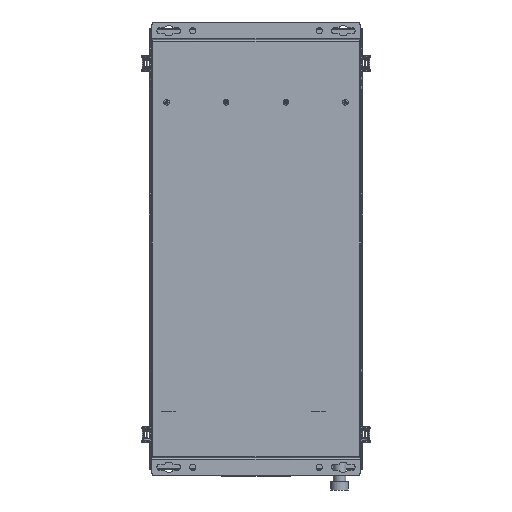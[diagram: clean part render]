
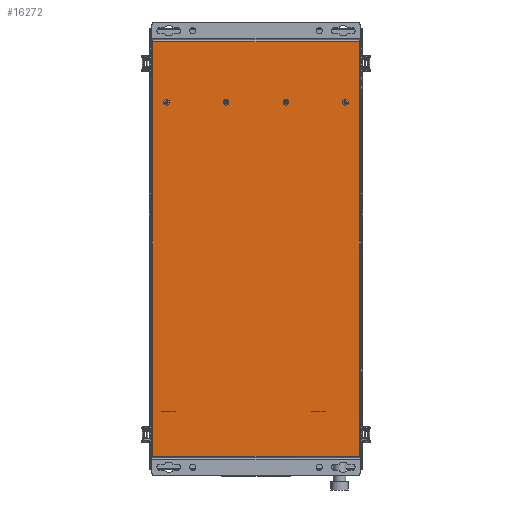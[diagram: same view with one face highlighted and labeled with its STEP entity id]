
A CAD part, front view. The second image highlights one B-rep face of the part: STEP entity #16272.
In plain terms, the highlighted planar face has unit normal (0, -1, 0).
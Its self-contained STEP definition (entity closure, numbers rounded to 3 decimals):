
#56 = CARTESIAN_POINT ( 'NONE',  ( 128., 0., 210. ) ) ;
#502 = ORIENTED_EDGE ( 'NONE', *, *, #21022, .F. ) ;
#509 = VERTEX_POINT ( 'NONE', #10418 ) ;
#537 = CARTESIAN_POINT ( 'NONE',  ( 148., 0., -299. ) ) ;
#1115 = CARTESIAN_POINT ( 'NONE',  ( -148., 0., -297. ) ) ;
#1475 = ORIENTED_EDGE ( 'NONE', *, *, #22791, .T. ) ;
#2099 = CARTESIAN_POINT ( 'NONE',  ( -42.667, 0., 212.1 ) ) ;
#2297 = VECTOR ( 'NONE', #22417, 1000. ) ;
#2311 = CARTESIAN_POINT ( 'NONE',  ( 148., 0., 297. ) ) ;
#2436 = DIRECTION ( 'NONE',  ( 0., 0., -1. ) ) ;
#2803 = FACE_BOUND ( 'NONE', #7462, .T. ) ;
#2819 = DIRECTION ( 'NONE',  ( 0., -1., 0. ) ) ;
#3529 = FACE_OUTER_BOUND ( 'NONE', #24255, .T. ) ;
#3604 = EDGE_LOOP ( 'NONE', ( #22358, #9905 ) ) ;
#3687 = EDGE_CURVE ( 'NONE', #23500, #25206, #30230, .T. ) ;
#3703 = ORIENTED_EDGE ( 'NONE', *, *, #12138, .F. ) ;
#3946 = DIRECTION ( 'NONE',  ( 0., -1., 0. ) ) ;
#4155 = LINE ( 'NONE', #6780, #21587 ) ;
#4474 = DIRECTION ( 'NONE',  ( 0., 0., -1. ) ) ;
#4632 = VERTEX_POINT ( 'NONE', #14581 ) ;
#4853 = CARTESIAN_POINT ( 'NONE',  ( -148., 0., 297. ) ) ;
#4890 = AXIS2_PLACEMENT_3D ( 'NONE', #56, #16613, #2436 ) ;
#5202 = CARTESIAN_POINT ( 'NONE',  ( -128., 0., 212.1 ) ) ;
#5326 = DIRECTION ( 'NONE',  ( 0., 0., -1. ) ) ;
#5708 = CARTESIAN_POINT ( 'NONE',  ( 128., 0., 207.9 ) ) ;
#6116 = DIRECTION ( 'NONE',  ( 0., -1., 0. ) ) ;
#6780 = CARTESIAN_POINT ( 'NONE',  ( -148., 0., 299. ) ) ;
#7277 = EDGE_CURVE ( 'NONE', #24187, #27477, #16287, .T. ) ;
#7462 = EDGE_LOOP ( 'NONE', ( #502, #3703 ) ) ;
#7531 = ORIENTED_EDGE ( 'NONE', *, *, #9371, .T. ) ;
#7822 = CARTESIAN_POINT ( 'NONE',  ( -42.667, 0., 210. ) ) ;
#8334 = ORIENTED_EDGE ( 'NONE', *, *, #27048, .F. ) ;
#8572 = LINE ( 'NONE', #1115, #2297 ) ;
#8797 = VERTEX_POINT ( 'NONE', #23921 ) ;
#8854 = CARTESIAN_POINT ( 'NONE',  ( 128., 0., 210. ) ) ;
#8953 = CARTESIAN_POINT ( 'NONE',  ( -128., 0., 210. ) ) ;
#9072 = FACE_BOUND ( 'NONE', #10624, .T. ) ;
#9371 = EDGE_CURVE ( 'NONE', #13422, #24187, #13216, .T. ) ;
#9409 = EDGE_CURVE ( 'NONE', #8797, #509, #24290, .T. ) ;
#9460 = ORIENTED_EDGE ( 'NONE', *, *, #26924, .F. ) ;
#9653 = ORIENTED_EDGE ( 'NONE', *, *, #18527, .T. ) ;
#9905 = ORIENTED_EDGE ( 'NONE', *, *, #9409, .F. ) ;
#9925 = DIRECTION ( 'NONE',  ( 0., 0., 1. ) ) ;
#9981 = VECTOR ( 'NONE', #14133, 1000. ) ;
#10032 = CARTESIAN_POINT ( 'NONE',  ( -42.667, 0., 207.9 ) ) ;
#10073 = VERTEX_POINT ( 'NONE', #5202 ) ;
#10170 = DIRECTION ( 'NONE',  ( 0., 0., -1. ) ) ;
#10394 = AXIS2_PLACEMENT_3D ( 'NONE', #26682, #12523, #29064 ) ;
#10418 = CARTESIAN_POINT ( 'NONE',  ( 42.667, 0., 207.9 ) ) ;
#10624 = EDGE_LOOP ( 'NONE', ( #8334, #30557 ) ) ;
#11250 = DIRECTION ( 'NONE',  ( 0., 0., -1. ) ) ;
#11363 = DIRECTION ( 'NONE',  ( 0., 0., -1. ) ) ;
#11782 = CIRCLE ( 'NONE', #4890, 2.1 ) ;
#11915 = ORIENTED_EDGE ( 'NONE', *, *, #7277, .T. ) ;
#11925 = CIRCLE ( 'NONE', #23931, 2.1 ) ;
#11999 = VERTEX_POINT ( 'NONE', #15135 ) ;
#12082 = AXIS2_PLACEMENT_3D ( 'NONE', #18151, #3946, #20529 ) ;
#12138 = EDGE_CURVE ( 'NONE', #10073, #4632, #11925, .T. ) ;
#12250 = CIRCLE ( 'NONE', #12082, 2.1 ) ;
#12523 = DIRECTION ( 'NONE',  ( 0., -1., 0. ) ) ;
#13145 = EDGE_CURVE ( 'NONE', #509, #8797, #12250, .T. ) ;
#13216 = LINE ( 'NONE', #537, #18774 ) ;
#13422 = VERTEX_POINT ( 'NONE', #21652 ) ;
#13514 = ORIENTED_EDGE ( 'NONE', *, *, #3687, .F. ) ;
#14133 = DIRECTION ( 'NONE',  ( -1., 0., 0. ) ) ;
#14581 = CARTESIAN_POINT ( 'NONE',  ( -128., 0., 207.9 ) ) ;
#15135 = CARTESIAN_POINT ( 'NONE',  ( -148., 0., -297. ) ) ;
#15413 = FACE_BOUND ( 'NONE', #22716, .T. ) ;
#16272 = ADVANCED_FACE ( 'NONE', ( #21700, #15413, #3529, #9072, #2803 ), #26531, .T. ) ;
#16287 = LINE ( 'NONE', #2311, #9981 ) ;
#16481 = CIRCLE ( 'NONE', #22416, 2.1 ) ;
#16613 = DIRECTION ( 'NONE',  ( 0., -1., 0. ) ) ;
#17007 = CARTESIAN_POINT ( 'NONE',  ( -128., 0., 210. ) ) ;
#17816 = VERTEX_POINT ( 'NONE', #10032 ) ;
#18151 = CARTESIAN_POINT ( 'NONE',  ( 42.667, 0., 210. ) ) ;
#18527 = EDGE_CURVE ( 'NONE', #11999, #13422, #8572, .T. ) ;
#18774 = VECTOR ( 'NONE', #9925, 1000. ) ;
#19392 = DIRECTION ( 'NONE',  ( 0., 0., -1. ) ) ;
#19523 = DIRECTION ( 'NONE',  ( 0., -1., 0. ) ) ;
#19773 = EDGE_CURVE ( 'NONE', #20923, #17816, #23195, .T. ) ;
#20292 = CARTESIAN_POINT ( 'NONE',  ( -42.667, 0., 210. ) ) ;
#20529 = DIRECTION ( 'NONE',  ( 0., 0., -1. ) ) ;
#20923 = VERTEX_POINT ( 'NONE', #2099 ) ;
#21022 = EDGE_CURVE ( 'NONE', #4632, #10073, #16481, .T. ) ;
#21275 = AXIS2_PLACEMENT_3D ( 'NONE', #24141, #19523, #5326 ) ;
#21587 = VECTOR ( 'NONE', #4474, 1000. ) ;
#21652 = CARTESIAN_POINT ( 'NONE',  ( 148., 0., -297. ) ) ;
#21700 = FACE_BOUND ( 'NONE', #3604, .T. ) ;
#22358 = ORIENTED_EDGE ( 'NONE', *, *, #13145, .F. ) ;
#22416 = AXIS2_PLACEMENT_3D ( 'NONE', #17007, #2819, #19392 ) ;
#22417 = DIRECTION ( 'NONE',  ( 1., 0., 0. ) ) ;
#22647 = DIRECTION ( 'NONE',  ( 0., 0., -1. ) ) ;
#22716 = EDGE_LOOP ( 'NONE', ( #13514, #9460 ) ) ;
#22791 = EDGE_CURVE ( 'NONE', #27477, #11999, #4155, .T. ) ;
#23195 = CIRCLE ( 'NONE', #30295, 2.1 ) ;
#23500 = VERTEX_POINT ( 'NONE', #5708 ) ;
#23921 = CARTESIAN_POINT ( 'NONE',  ( 42.667, 0., 212.1 ) ) ;
#23931 = AXIS2_PLACEMENT_3D ( 'NONE', #8953, #25509, #11363 ) ;
#23933 = AXIS2_PLACEMENT_3D ( 'NONE', #7822, #24341, #10170 ) ;
#24141 = CARTESIAN_POINT ( 'NONE',  ( 150., 0., 299. ) ) ;
#24187 = VERTEX_POINT ( 'NONE', #25125 ) ;
#24255 = EDGE_LOOP ( 'NONE', ( #1475, #9653, #7531, #11915 ) ) ;
#24290 = CIRCLE ( 'NONE', #10394, 2.1 ) ;
#24341 = DIRECTION ( 'NONE',  ( 0., -1., 0. ) ) ;
#25125 = CARTESIAN_POINT ( 'NONE',  ( 148., 0., 297. ) ) ;
#25206 = VERTEX_POINT ( 'NONE', #29435 ) ;
#25396 = DIRECTION ( 'NONE',  ( 0., -1., 0. ) ) ;
#25509 = DIRECTION ( 'NONE',  ( 0., -1., 0. ) ) ;
#26531 = PLANE ( 'NONE',  #21275 ) ;
#26682 = CARTESIAN_POINT ( 'NONE',  ( 42.667, 0., 210. ) ) ;
#26924 = EDGE_CURVE ( 'NONE', #25206, #23500, #11782, .T. ) ;
#27048 = EDGE_CURVE ( 'NONE', #17816, #20923, #27662, .T. ) ;
#27207 = AXIS2_PLACEMENT_3D ( 'NONE', #8854, #25396, #11250 ) ;
#27477 = VERTEX_POINT ( 'NONE', #4853 ) ;
#27662 = CIRCLE ( 'NONE', #23933, 2.1 ) ;
#29064 = DIRECTION ( 'NONE',  ( 0., 0., -1. ) ) ;
#29435 = CARTESIAN_POINT ( 'NONE',  ( 128., 0., 212.1 ) ) ;
#30230 = CIRCLE ( 'NONE', #27207, 2.1 ) ;
#30295 = AXIS2_PLACEMENT_3D ( 'NONE', #20292, #6116, #22647 ) ;
#30557 = ORIENTED_EDGE ( 'NONE', *, *, #19773, .F. ) ;
